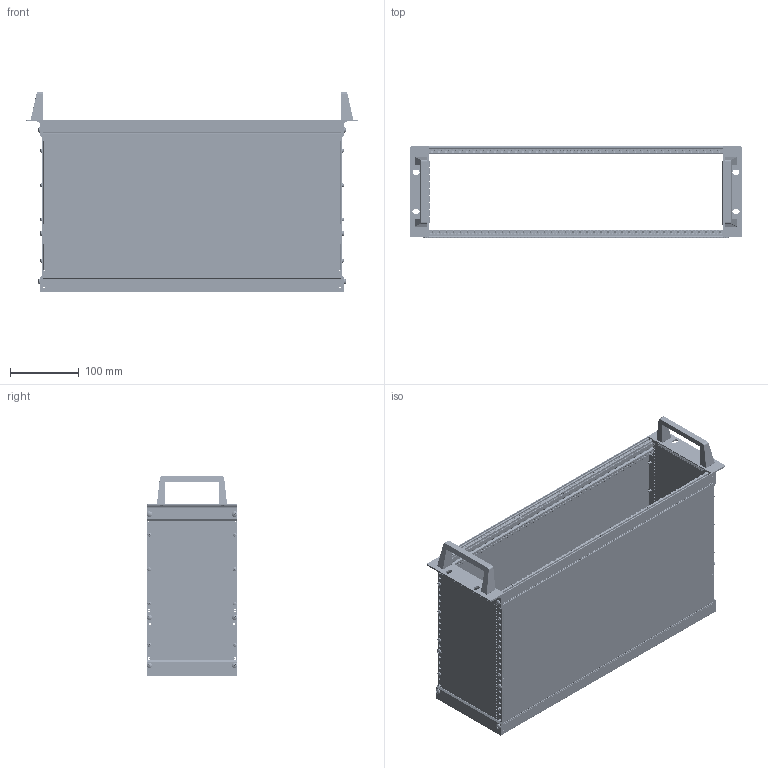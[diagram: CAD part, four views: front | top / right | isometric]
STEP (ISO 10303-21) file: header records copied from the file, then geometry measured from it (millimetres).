
FILE_DESCRIPTION (( 'STEP AP203' ), '1' );
FILE_NAME ('1384-2450.STEP', '2026-02-04T09:05:19', ( '' ), ( '' ), 'SwSTEP 2.0', 'SolidWorks 2013', '' );
FILE_SCHEMA (( 'CONFIG_CONTROL_DESIGN' ));
Length unit declared in the file: millimetre
Products named in the file (16): 3U陔ㄗ晜ㄘヶ楊擘; GBT818十字槽盘头螺钉_M4×12; 84TE裔啣; 3U-I倰そ敖銅; 84TE裔啣そ敖銅; 84TEヶ褽そ敖銅; GBT819.1十字槽沉头螺钉_M5×10; EK綴楊擘; 橈埽沭; 84TE蹟謂沭; GBT818十字槽盘头螺钉_M3×8; 1384-2450; 3U參忒-250; 84TE-EK后梁（插螺孔条）; 3U245耜啣; 84TE-EKヶ褽
Assembly tree (73 placements, depth 2):
  1384-2450
    3U245耜啣  x2
    3U陔ㄗ晜ㄘヶ楊擘  x2
    EK綴楊擘  x2
    84TE裔啣  x2
    84TE-EKヶ褽  x4
    84TE-EK后梁（插螺孔条）  x2
    84TE蹟謂沭  x6
    3U參忒-250  x2
    橈埽沭  x8
    3U-I倰そ敖銅  x3
    84TEヶ褽そ敖銅  x4
    84TE裔啣そ敖銅  x4
    GBT818十字槽盘头螺钉_M4×12  x12
    GBT818十字槽盘头螺钉_M3×8  x16
    GBT819.1十字槽沉头螺钉_M5×10  x4
Bounding box: 482.6 x 133.43 x 290 mm (x, y, z)
Volume: 778566.4 mm3; surface area: 1071389.8 mm2
Topology: 73 solids, 73 shells, 31014 faces, 81332 edges, 49914 vertices
Faces by surface type: plane 17446, cylinder 10992, bspline 2238, cone 188, sphere 78, torus 72
Entity records: 251686 total; most frequent: CARTESIAN_POINT 54561, ORIENTED_EDGE 41288, DIRECTION 39690, EDGE_CURVE 20644, LINE 13612, VECTOR 13612, AXIS2_PLACEMENT_3D 13039, VERTEX_POINT 12694
